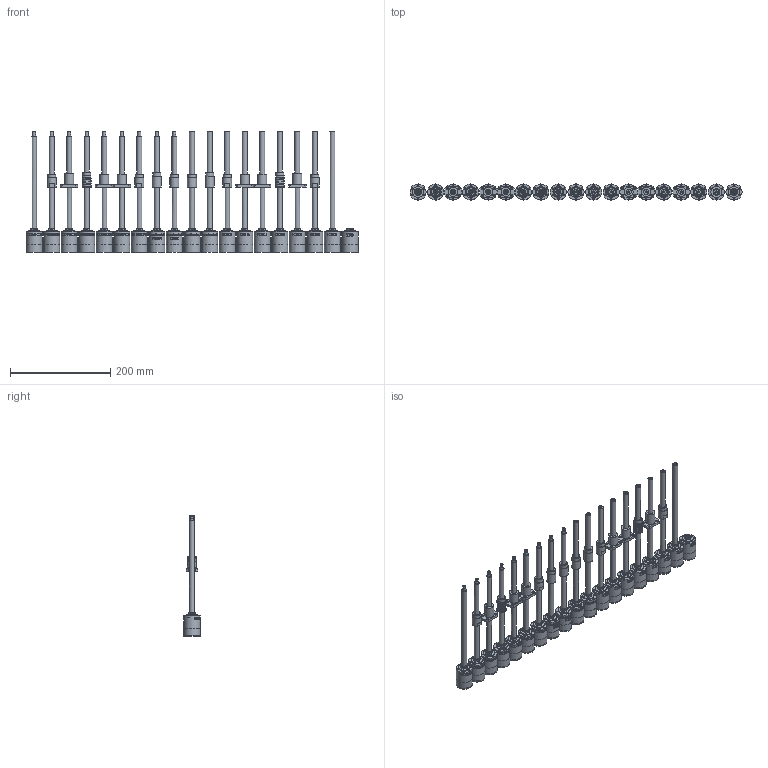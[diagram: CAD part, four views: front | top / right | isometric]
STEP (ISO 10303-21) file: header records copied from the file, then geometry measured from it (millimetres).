
FILE_DESCRIPTION(/* description */ (''),/* implementation_level */ '2;1');
FILE_NAME(/* name */ '32L-1stage_standard_KWNx_KWS1_KF9.stp',/* time_stamp */ '2024-02-27T15:24:32+01:00',/* author */ ('DR. FRITZ FAULHABER GmbH & Co. KG'),/* organization */ ('DR. FRITZ FAULHABER GmbH & Co. KG'),/* preprocessor_version */ 'ST-DEVELOPER v19.3',/* originating_system */ 'SIEMENS PLM Software NX2212.4000',/* authorisation */ '');
FILE_SCHEMA (('AUTOMOTIVE_DESIGN { 1 0 10303 214 3 1 1 1 }'));
Length unit declared in the file: millimetre
Products named in the file (1): C_objects
Bounding box: 662 x 32.01 x 240.7 mm (x, y, z)
Volume: 947383.1 mm3; surface area: 261717.1 mm2
Topology: 19 solids, 19 shells, 2862 faces, 6774 edges, 4468 vertices
Faces by surface type: plane 1502, cylinder 687, bspline 614, torus 38, cone 21
Full cylindrical faces by diameter (mm): 2.5 x114, 4.5 x25, 6 x9, 6.4 x1, 7.5 x1, 8.1 x1, 10 x52, 10.6 x18, 14.568 x19, 15.8 x2, 16 x10, 18 x31, 18.5 x2, 22 x19, 29.5 x2, 29.8 x19, 31.999 x19, 32 x38
Entity records: 184419 total; most frequent: CARTESIAN_POINT 114204, ORIENTED_EDGE 12368, DIRECTION 9227, EDGE_CURVE 6184, VERTEX_POINT 4356, EDGE_LOOP 3995, AXIS2_PLACEMENT_3D 3855, B_SPLINE_CURVE_WITH_KNOTS 3062
